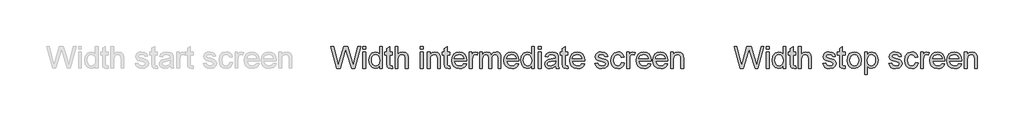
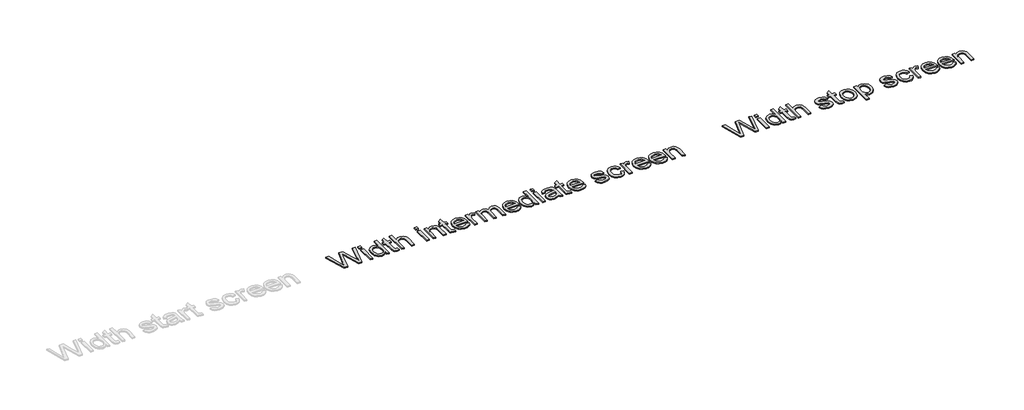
# One storey, part 3 of 4: 2 proxies.
"""IFC4 building model written with IfcOpenShell, lengths in millimetres."""

from ifc_helpers import new_model, si_unit, origin, origin_with_axes, place, context, project, spatial, polyline, outline, extrude, element, save

model = new_model("IFC4")

# Units and contexts
model_context = context("Model", 3, world=origin())
ifc_project = project(units=[si_unit("LENGTHUNIT", "METRE", prefix="MILLI")], contexts=[model_context])

# Site, building, storey
site = spatial("IfcSite", under=ifc_project)
building = spatial("IfcBuilding", under=site)
storey = spatial("IfcBuildingStorey", under=building, Name="Fixscreen Mini CW50 Reynaers Overview Top", Elevation=0.0)

# Proxies
placement = place(None, origin())
element("IfcBuildingElementProxy", 1, Name="100mm Arial", ObjectType="100mm Arial", at=placement, inside=storey, context=model_context, shape_type="SweptSolid", body=[
    extrude(outline(polyline([(6048.0070111, -5916.1618941), (6020.6120652, -5815.705584), (6033.5615114, -5815.705584), (6049.4540136, -5881.7281394), (6054.3591069, -5902.1088019), (6059.6075567, -5884.0825842), (6079.5222354, -5815.705584), (6098.1861153, -5815.705584), (6112.6561404, -5865.2715515), (6123.4228201, -5902.1088019), (6128.1807606, -5882.3167506), (6144.2204156, -5815.705584), (6157.1698618, -5815.705584), (6129.7503904, -5916.1618941), (6116.3349603, -5916.1618941), (6092.2509524, -5838.6614205), (6088.8909635, -5827.8456898), (6085.1140417, -5840.8687125), (6063.1637493, -5916.1618941), (6048.0070111, -5916.1618941)])), origin_with_axes(), (0.0, 0.0, 1.0), 5.0),
    extrude(outline(polyline([(6168.1572707, -5916.1618941), (6168.1572707, -5842.3892914), (6180.7143095, -5842.3892914), (6180.7143095, -5916.1618941), (6168.1572707, -5916.1618941)])), origin_with_axes(), (0.0, 0.0, 1.0), 5.0),
    extrude(outline(polyline([(6168.1572707, -5828.2626228), (6168.1572707, -5815.705584), (6180.7143095, -5815.705584), (6180.7143095, -5828.2626228), (6168.1572707, -5828.2626228)])), origin_with_axes(), (0.0, 0.0, 1.0), 5.0),
    extrude(outline(polyline([(6245.0691332, -5916.1618941), (6245.0691332, -5904.3160939), (6236.7611315, -5914.3776665), (6225.2770819, -5917.731524), (6209.7279362, -5912.8754817), (6198.7405273, -5899.3251615), (6194.8409781, -5879.3491692), (6198.4339589, -5859.3609141), (6209.2006387, -5845.6021275), (6225.2280309, -5840.8196615), (6236.804051, -5844.2409641), (6245.0691332, -5853.1314456), (6245.0691332, -5815.705584), (6257.626172, -5815.705584), (6257.626172, -5916.1618941), (6245.0691332, -5916.1618941)]), holes=[polyline([(6207.3980169, -5879.3001182), (6208.8143626, -5890.6584748), (6213.0633996, -5898.7365503), (6219.2376858, -5903.5650015), (6226.4297788, -5905.1744852), (6233.6188061, -5903.6385779), (6239.6367424, -5899.0308559), (6243.7110355, -5891.2654801), (6245.0691332, -5880.2566114), (6243.68651, -5868.2207388), (6239.5386405, -5859.8759489), (6233.3674201, -5855.0015124), (6225.914744, -5853.3767003), (6218.6490746, -5854.9371331), (6212.6955176, -5859.6184315), (6208.7223921, -5867.6597188), (6207.3980169, -5879.3001182)])]), origin_with_axes(), (0.0, 0.0, 1.0), 5.0),
    extrude(outline(polyline([(6303.1454375, -5905.68952), (6304.7150673, -5916.5297761), (6295.3218137, -5917.731524), (6284.8003887, -5915.6468593), (6279.5519389, -5910.1776804), (6278.03136, -5895.9283844), (6278.03136, -5854.9463301), (6268.6135809, -5854.9463301), (6268.6135809, -5842.3892914), (6278.03136, -5842.3892914), (6278.03136, -5824.4611755), (6290.5883987, -5817.0790101), (6290.5883987, -5842.3892914), (6303.1454375, -5842.3892914), (6303.1454375, -5854.9463301), (6290.5883987, -5854.9463301), (6290.5883987, -5895.5605024), (6291.2505863, -5902.0352255), (6293.3965646, -5904.3283566), (6297.6762585, -5905.1744852), (6303.1454375, -5905.68952)])), origin_with_axes(), (0.0, 0.0, 1.0), 5.0),
    extrude(outline(polyline([(6315.7024763, -5916.1618941), (6315.7024763, -5815.705584), (6328.259515, -5815.705584), (6328.259515, -5852.6409363), (6338.0513075, -5843.7749802), (6350.1117056, -5840.8196615), (6364.2138487, -5844.0447604), (6372.7732365, -5852.9597674), (6375.3484104, -5869.4654062), (6375.3484104, -5916.1618941), (6362.7913717, -5916.1618941), (6362.7913717, -5870.7652559), (6358.7937206, -5857.5215041), (6347.4629552, -5853.3767003), (6337.1745221, -5856.1726035), (6330.3073915, -5863.7509726), (6328.259515, -5876.9701989), (6328.259515, -5916.1618941), (6315.7024763, -5916.1618941)])), origin_with_axes(), (0.0, 0.0, 1.0), 5.0),
    extrude(outline(polyline([(6431.8550849, -5828.2626228), (6431.8550849, -5815.705584), (6444.4121236, -5815.705584), (6444.4121236, -5828.2626228), (6431.8550849, -5828.2626228)])), origin_with_axes(), (0.0, 0.0, 1.0), 5.0),
    extrude(outline(polyline([(6431.8550849, -5916.1618941), (6431.8550849, -5842.3892914), (6444.4121236, -5842.3892914), (6444.4121236, -5916.1618941), (6431.8550849, -5916.1618941)])), origin_with_axes(), (0.0, 0.0, 1.0), 5.0),
    extrude(outline(polyline([(6463.2476818, -5916.1618941), (6463.2476818, -5842.3892914), (6475.8047206, -5842.3892914), (6475.8047206, -5852.6899872), (6485.4064406, -5843.787243), (6498.5153024, -5840.8196615), (6510.3733654, -5843.2108945), (6518.4667693, -5849.4894139), (6522.2314284, -5858.723252), (6522.893616, -5870.8633578), (6522.893616, -5916.1618941), (6510.3365772, -5916.1618941), (6510.3365772, -5872.555615), (6508.8895747, -5861.4455787), (6503.7760149, -5855.5717295), (6495.1553135, -5853.3767003), (6481.531417, -5858.306319), (6477.2363947, -5865.4493611), (6475.8047206, -5877.0192499), (6475.8047206, -5916.1618941), (6463.2476818, -5916.1618941)])), origin_with_axes(), (0.0, 0.0, 1.0), 5.0),
    extrude(outline(polyline([(6566.8432516, -5905.68952), (6568.4128815, -5916.5297761), (6559.0196279, -5917.731524), (6548.4982028, -5915.6468593), (6543.249753, -5910.1776804), (6541.7291741, -5895.9283844), (6541.7291741, -5854.9463301), (6532.311395, -5854.9463301), (6532.311395, -5842.3892914), (6541.7291741, -5842.3892914), (6541.7291741, -5824.4611755), (6554.2862129, -5817.0790101), (6554.2862129, -5842.3892914), (6566.8432516, -5842.3892914), (6566.8432516, -5854.9463301), (6554.2862129, -5854.9463301), (6554.2862129, -5895.5605024), (6554.9484005, -5902.0352255), (6557.0943788, -5904.3283566), (6561.3740726, -5905.1744852), (6566.8432516, -5905.68952)])), origin_with_axes(), (0.0, 0.0, 1.0), 5.0),
    extrude(outline(polyline([(6631.0509225, -5894.1870763), (6643.3627066, -5895.7567061), (6638.9266629, -5905.0334638), (6631.8480002, -5911.9680394), (6622.286134, -5916.2906528), (6610.4004799, -5917.731524), (6595.666806, -5915.2452548), (6584.3299091, -5907.7864474), (6577.1010279, -5895.8394796), (6574.6914009, -5879.8887294), (6577.1255534, -5863.4014847), (6584.428011, -5851.0713065), (6595.6116237, -5843.3825728), (6609.6892413, -5840.8196615), (6623.3284663, -5843.3764414), (6634.2269704, -5851.046781), (6641.3730782, -5863.3524337), (6643.7551141, -5879.815153), (6643.6815377, -5883.1996674), (6587.2484396, -5883.1996674), (6589.4220091, -5892.5990524), (6594.4711895, -5899.5091025), (6601.7583187, -5903.7581395), (6610.6457345, -5905.1744852), (6622.9575186, -5902.5502603), (6631.0509225, -5894.1870763)]), holes=[polyline([(6587.2484396, -5870.6426286), (6631.1980753, -5870.6426286), (6626.1703547, -5859.2628122), (6618.849503, -5854.8482283), (6609.6401904, -5853.3767003), (6594.1768839, -5858.0733271), (6589.3116445, -5863.5639659), (6587.2484396, -5870.6426286)])]), origin_with_axes(), (0.0, 0.0, 1.0), 5.0),
    extrude(outline(polyline([(6656.3121529, -5916.1618941), (6656.3121529, -5842.3892914), (6667.2995618, -5842.3892914), (6667.2995618, -5853.3031239), (6675.0986601, -5843.2476827), (6682.9468093, -5840.8196615), (6695.552899, -5844.6946852), (6691.3590443, -5855.9518743), (6682.5298764, -5853.3767003), (6675.4297539, -5855.8537724), (6670.9048053, -5862.720903), (6668.8691916, -5877.3871319), (6668.8691916, -5916.1618941), (6656.3121529, -5916.1618941)])), origin_with_axes(), (0.0, 0.0, 1.0), 5.0),
    extrude(outline(polyline([(6703.4010483, -5916.1618941), (6703.4010483, -5842.3892914), (6715.958087, -5842.3892914), (6715.958087, -5854.5293972), (6724.5910512, -5844.5843206), (6736.8783098, -5840.8196615), (6749.459874, -5844.657897), (6756.3760556, -5855.412314), (6766.1739794, -5844.4678246), (6778.5470771, -5840.8196615), (6787.986316, -5842.3371748), (6794.9668769, -5846.8897145), (6799.2802932, -5854.5999079), (6800.7180987, -5865.5903825), (6800.7180987, -5916.1618941), (6788.1610599, -5916.1618941), (6788.1610599, -5870.9859851), (6786.9961003, -5860.5013483), (6782.7777201, -5855.3387376), (6775.6040212, -5853.3767003), (6763.2554489, -5858.4044209), (6759.5674319, -5864.946589), (6758.3380929, -5874.5176523), (6758.3380929, -5916.1618941), (6745.7810541, -5916.1618941), (6745.7810541, -5869.5880336), (6742.8747863, -5857.4234022), (6733.3466427, -5853.3767003), (6724.0514909, -5856.0745016), (6717.8710734, -5863.9717018), (6715.958087, -5878.9567617), (6715.958087, -5916.1618941), (6703.4010483, -5916.1618941)])), origin_with_axes(), (0.0, 0.0, 1.0), 5.0),
    extrude(outline(polyline([(6871.204289, -5894.1870763), (6883.5160731, -5895.7567061), (6879.0800294, -5905.0334638), (6872.0013666, -5911.9680394), (6862.4395005, -5916.2906528), (6850.5538463, -5917.731524), (6835.8201724, -5915.2452548), (6824.4832756, -5907.7864474), (6817.2543944, -5895.8394796), (6814.8447673, -5879.8887294), (6817.2789199, -5863.4014847), (6824.5813775, -5851.0713065), (6835.7649901, -5843.3825728), (6849.8426078, -5840.8196615), (6863.4818328, -5843.3764414), (6874.3803369, -5851.046781), (6881.5264446, -5863.3524337), (6883.9084806, -5879.815153), (6883.8349042, -5883.1996674), (6827.4018061, -5883.1996674), (6829.5753755, -5892.5990524), (6834.6245559, -5899.5091025), (6841.9116851, -5903.7581395), (6850.799101, -5905.1744852), (6863.1108851, -5902.5502603), (6871.204289, -5894.1870763)]), holes=[polyline([(6827.4018061, -5870.6426286), (6871.3514418, -5870.6426286), (6866.3237212, -5859.2628122), (6859.0028695, -5854.8482283), (6849.7935569, -5853.3767003), (6834.3302503, -5858.0733271), (6829.4650109, -5863.5639659), (6827.4018061, -5870.6426286)])]), origin_with_axes(), (0.0, 0.0, 1.0), 5.0),
    extrude(outline(polyline([(6941.9847849, -5916.1618941), (6941.9847849, -5904.3160939), (6933.6767831, -5914.3776665), (6922.1927335, -5917.731524), (6906.6435879, -5912.8754817), (6895.6561789, -5899.3251615), (6891.7566298, -5879.3491692), (6895.3496106, -5859.3609141), (6906.1162903, -5845.6021275), (6922.1436826, -5840.8196615), (6933.7197027, -5844.2409641), (6941.9847849, -5853.1314456), (6941.9847849, -5815.705584), (6954.5418236, -5815.705584), (6954.5418236, -5916.1618941), (6941.9847849, -5916.1618941)]), holes=[polyline([(6904.3136686, -5879.3001182), (6905.7300142, -5890.6584748), (6909.9790513, -5898.7365503), (6916.1533374, -5903.5650015), (6923.3454304, -5905.1744852), (6930.5344578, -5903.6385779), (6936.5523941, -5899.0308559), (6940.6266872, -5891.2654801), (6941.9847849, -5880.2566114), (6940.6021617, -5868.2207388), (6936.4542922, -5859.8759489), (6930.2830717, -5855.0015124), (6922.8303956, -5853.3767003), (6915.5647262, -5854.9371331), (6909.6111693, -5859.6184315), (6905.6380437, -5867.6597188), (6904.3136686, -5879.3001182)])]), origin_with_axes(), (0.0, 0.0, 1.0), 5.0),
    extrude(outline(polyline([(6973.3773818, -5916.1618941), (6973.3773818, -5842.3892914), (6985.9344205, -5842.3892914), (6985.9344205, -5916.1618941), (6973.3773818, -5916.1618941)])), origin_with_axes(), (0.0, 0.0, 1.0), 5.0),
    extrude(outline(polyline([(6973.3773818, -5828.2626228), (6973.3773818, -5815.705584), (6985.9344205, -5815.705584), (6985.9344205, -5828.2626228), (6973.3773818, -5828.2626228)])), origin_with_axes(), (0.0, 0.0, 1.0), 5.0),
    extrude(outline(polyline([(7051.8588741, -5906.7441151), (7039.68198, -5915.2544519), (7026.2297618, -5917.731524), (7015.7359278, -5916.2416019), (7007.9950775, -5911.7718357), (7003.2218086, -5904.9844129), (7001.630719, -5896.5415211), (7004.0342147, -5886.6087072), (7010.3495223, -5879.3982201), (7019.141902, -5875.2779417), (7030.0066836, -5873.3894808), (7051.7852977, -5869.0729988), (7051.8588741, -5866.2770956), (7048.4007833, -5857.0064693), (7034.5193694, -5853.3767003), (7021.8151778, -5855.7924587), (7015.7573876, -5864.3641092), (7003.2003489, -5862.7944794), (7008.6327397, -5850.5317462), (7019.5710976, -5843.3457846), (7036.1380502, -5840.8196615), (7051.356102, -5843.051479), (7059.952278, -5848.655548), (7063.8027762, -5857.1781476), (7064.4159129, -5868.1655565), (7064.4159129, -5883.7882786), (7065.053575, -5905.6036809), (7067.5551725, -5916.1618941), (7054.9981338, -5916.1618941), (7051.8588741, -5906.7441151)]), holes=[polyline([(7051.8588741, -5881.6300375), (7031.6008389, -5885.4805357), (7020.797371, -5887.5161495), (7015.9045404, -5890.8270874), (7014.1877578, -5895.6586043), (7017.9278914, -5902.4521585), (7028.9030376, -5905.1744852), (7041.6072292, -5902.1701156), (7049.7987349, -5894.8983148), (7051.7852977, -5885.1862301), (7051.8588741, -5881.6300375)])]), origin_with_axes(), (0.0, 0.0, 1.0), 5.0),
    extrude(outline(polyline([(7108.3655485, -5905.68952), (7109.9351784, -5916.5297761), (7100.5419248, -5917.731524), (7090.0204997, -5915.6468593), (7084.7720499, -5910.1776804), (7083.251471, -5895.9283844), (7083.251471, -5854.9463301), (7073.8336919, -5854.9463301), (7073.8336919, -5842.3892914), (7083.251471, -5842.3892914), (7083.251471, -5824.4611755), (7095.8085098, -5817.0790101), (7095.8085098, -5842.3892914), (7108.3655485, -5842.3892914), (7108.3655485, -5854.9463301), (7095.8085098, -5854.9463301), (7095.8085098, -5895.5605024), (7096.4706974, -5902.0352255), (7098.6166757, -5904.3283566), (7102.8963695, -5905.1744852), (7108.3655485, -5905.68952)])), origin_with_axes(), (0.0, 0.0, 1.0), 5.0),
    extrude(outline(polyline([(7172.5732194, -5894.1870763), (7184.8850035, -5895.7567061), (7180.4489598, -5905.0334638), (7173.3702971, -5911.9680394), (7163.8084309, -5916.2906528), (7151.9227768, -5917.731524), (7137.1891029, -5915.2452548), (7125.852206, -5907.7864474), (7118.6233248, -5895.8394796), (7116.2136978, -5879.8887294), (7118.6478503, -5863.4014847), (7125.9503079, -5851.0713065), (7137.1339206, -5843.3825728), (7151.2115382, -5840.8196615), (7164.8507632, -5843.3764414), (7175.7492673, -5851.046781), (7182.8953751, -5863.3524337), (7185.277411, -5879.815153), (7185.2038346, -5883.1996674), (7128.7707365, -5883.1996674), (7130.944306, -5892.5990524), (7135.9934864, -5899.5091025), (7143.2806156, -5903.7581395), (7152.1680314, -5905.1744852), (7164.4798155, -5902.5502603), (7172.5732194, -5894.1870763)]), holes=[polyline([(7128.7707365, -5870.6426286), (7172.7203722, -5870.6426286), (7167.6926516, -5859.2628122), (7160.3717999, -5854.8482283), (7151.1624873, -5853.3767003), (7135.6991808, -5858.0733271), (7130.8339414, -5863.5639659), (7128.7707365, -5870.6426286)])]), origin_with_axes(), (0.0, 0.0, 1.0), 5.0),
    extrude(outline(polyline([(7232.3663064, -5894.1870763), (7244.9233452, -5892.6174465), (7250.7358807, -5901.9371237), (7264.0532089, -5905.1744852), (7276.8555023, -5902.2069038), (7281.0248316, -5895.2416713), (7276.8309769, -5889.6008141), (7263.9060561, -5886.020096), (7244.9969216, -5879.8764667), (7236.7441021, -5872.7027678), (7233.9359362, -5862.5737502), (7236.1922791, -5853.2172848), (7242.3481712, -5846.0681113), (7250.3312105, -5842.3525032), (7261.1346784, -5840.8196615), (7276.4140439, -5843.2844709), (7286.1261286, -5849.9553977), (7290.4426107, -5861.2248495), (7277.8855719, -5862.7944794), (7273.1644196, -5855.8660351), (7262.1156971, -5853.3767003), (7250.0982186, -5855.7556705), (7246.492975, -5861.2984259), (7247.9890284, -5864.9527204), (7252.6733925, -5867.7240981), (7263.4891232, -5870.3973739), (7281.9200111, -5876.3080113), (7290.4793989, -5883.0034636), (7293.5818704, -5893.9172962), (7289.9398386, -5905.9347747), (7279.4306763, -5914.653578), (7263.8815306, -5917.731524), (7251.2202586, -5916.2477333), (7241.9802892, -5911.7963611), (7235.8121344, -5904.4264585), (7232.3663064, -5894.1870763)])), origin_with_axes(), (0.0, 0.0, 1.0), 5.0),
    extrude(outline(polyline([(7354.7974344, -5889.4781868), (7367.3544731, -5891.0478166), (7363.8534628, -5902.2161008), (7357.2745065, -5910.6559269), (7348.2368721, -5915.9626247), (7337.3598278, -5917.731524), (7324.0026457, -5915.2636489), (7313.5578627, -5907.8600238), (7306.8164252, -5895.845611), (7304.5692793, -5879.5453729), (7308.4075148, -5858.6864638), (7320.1061622, -5845.2832964), (7337.1881495, -5840.8196615), (7347.7984794, -5842.3525032), (7356.2812251, -5846.9510281), (7362.3666064, -5854.3699817), (7365.7848433, -5864.3641092), (7353.2278045, -5865.9337391), (7347.4030063, -5856.5282227), (7337.2862514, -5853.3767003), (7329.1713877, -5854.927936), (7322.7303871, -5859.5816433), (7318.5273353, -5867.589208), (7317.1263181, -5879.2020164), (7318.4966785, -5890.9711745), (7322.6077598, -5899.0063304), (7328.9322644, -5903.6324465), (7336.9428949, -5905.1744852), (7348.7764324, -5901.323987), (7354.7974344, -5889.4781868)])), origin_with_axes(), (0.0, 0.0, 1.0), 5.0),
    extrude(outline(polyline([(7378.3418821, -5916.1618941), (7378.3418821, -5842.3892914), (7389.329291, -5842.3892914), (7389.329291, -5853.3031239), (7397.1283893, -5843.2476827), (7404.9765385, -5840.8196615), (7417.5826282, -5844.6946852), (7413.3887735, -5855.9518743), (7404.5596056, -5853.3767003), (7397.4594831, -5855.8537724), (7392.9345345, -5862.720903), (7390.8989208, -5877.3871319), (7390.8989208, -5916.1618941), (7378.3418821, -5916.1618941)])), origin_with_axes(), (0.0, 0.0, 1.0), 5.0),
    extrude(outline(polyline([(7477.0814096, -5894.1870763), (7489.3931937, -5895.7567061), (7484.95715, -5905.0334638), (7477.8784872, -5911.9680394), (7468.316621, -5916.2906528), (7456.4309669, -5917.731524), (7441.697293, -5915.2452548), (7430.3603962, -5907.7864474), (7423.131515, -5895.8394796), (7420.7218879, -5879.8887294), (7423.1560404, -5863.4014847), (7430.4584981, -5851.0713065), (7441.6421107, -5843.3825728), (7455.7197284, -5840.8196615), (7469.3589534, -5843.3764414), (7480.2574575, -5851.046781), (7487.4035652, -5863.3524337), (7489.7856011, -5879.815153), (7489.7120247, -5883.1996674), (7433.2789267, -5883.1996674), (7435.4524961, -5892.5990524), (7440.5016765, -5899.5091025), (7447.7888057, -5903.7581395), (7456.6762216, -5905.1744852), (7468.9880057, -5902.5502603), (7477.0814096, -5894.1870763)]), holes=[polyline([(7433.2789267, -5870.6426286), (7477.2285624, -5870.6426286), (7472.2008418, -5859.2628122), (7464.8799901, -5854.8482283), (7455.6706775, -5853.3767003), (7440.2073709, -5858.0733271), (7435.3421315, -5863.5639659), (7433.2789267, -5870.6426286)])]), origin_with_axes(), (0.0, 0.0, 1.0), 5.0),
    extrude(outline(polyline([(7553.993272, -5894.1870763), (7566.3050561, -5895.7567061), (7561.8690124, -5905.0334638), (7554.7903497, -5911.9680394), (7545.2284835, -5916.2906528), (7533.3428294, -5917.731524), (7518.6091555, -5915.2452548), (7507.2722586, -5907.7864474), (7500.0433774, -5895.8394796), (7497.6337504, -5879.8887294), (7500.0679029, -5863.4014847), (7507.3703605, -5851.0713065), (7518.5539732, -5843.3825728), (7532.6315908, -5840.8196615), (7546.2708158, -5843.3764414), (7557.1693199, -5851.046781), (7564.3154277, -5863.3524337), (7566.6974636, -5879.815153), (7566.6238872, -5883.1996674), (7510.1907891, -5883.1996674), (7512.3643586, -5892.5990524), (7517.413539, -5899.5091025), (7524.7006682, -5903.7581395), (7533.588084, -5905.1744852), (7545.8998681, -5902.5502603), (7553.993272, -5894.1870763)]), holes=[polyline([(7510.1907891, -5870.6426286), (7554.1404248, -5870.6426286), (7549.1127042, -5859.2628122), (7541.7918525, -5854.8482283), (7532.5825399, -5853.3767003), (7517.1192334, -5858.0733271), (7512.253994, -5863.5639659), (7510.1907891, -5870.6426286)])]), origin_with_axes(), (0.0, 0.0, 1.0), 5.0),
    extrude(outline(polyline([(7579.2545024, -5916.1618941), (7579.2545024, -5842.3892914), (7591.8115411, -5842.3892914), (7591.8115411, -5852.6899872), (7601.4132612, -5843.787243), (7614.522123, -5840.8196615), (7626.380186, -5843.2108945), (7634.4735898, -5849.4894139), (7638.2382489, -5858.723252), (7638.9004365, -5870.8633578), (7638.9004365, -5916.1618941), (7626.3433978, -5916.1618941), (7626.3433978, -5872.555615), (7624.8963952, -5861.4455787), (7619.7828355, -5855.5717295), (7611.1621341, -5853.3767003), (7597.5382375, -5858.306319), (7593.2432152, -5865.4493611), (7591.8115411, -5877.0192499), (7591.8115411, -5916.1618941), (7579.2545024, -5916.1618941)])), origin_with_axes(), (0.0, 0.0, 1.0), 5.0),
])
element("IfcBuildingElementProxy", 2, Name="100mm Arial", ObjectType="100mm Arial", at=placement, inside=storey, context=model_context, shape_type="SweptSolid", body=[
    extrude(outline(polyline([(7898.2278873, -5916.1618941), (7870.8329413, -5815.705584), (7883.7823876, -5815.705584), (7899.6748898, -5881.7281394), (7904.579983, -5902.1088019), (7909.8284328, -5884.0825842), (7929.7431115, -5815.705584), (7948.4069914, -5815.705584), (7962.8770165, -5865.2715515), (7973.6436963, -5902.1088019), (7978.4016367, -5882.3167506), (7994.4412917, -5815.705584), (8007.390738, -5815.705584), (7979.9712666, -5916.1618941), (7966.5558365, -5916.1618941), (7942.4718285, -5838.6614205), (7939.1118396, -5827.8456898), (7935.3349178, -5840.8687125), (7913.3846255, -5916.1618941), (7898.2278873, -5916.1618941)])), origin_with_axes(), (0.0, 0.0, 1.0), 5.0),
    extrude(outline(polyline([(8018.3781469, -5916.1618941), (8018.3781469, -5842.3892914), (8030.9351856, -5842.3892914), (8030.9351856, -5916.1618941), (8018.3781469, -5916.1618941)])), origin_with_axes(), (0.0, 0.0, 1.0), 5.0),
    extrude(outline(polyline([(8018.3781469, -5828.2626228), (8018.3781469, -5815.705584), (8030.9351856, -5815.705584), (8030.9351856, -5828.2626228), (8018.3781469, -5828.2626228)])), origin_with_axes(), (0.0, 0.0, 1.0), 5.0),
    extrude(outline(polyline([(8095.2900093, -5916.1618941), (8095.2900093, -5904.3160939), (8086.9820076, -5914.3776665), (8075.497958, -5917.731524), (8059.9488123, -5912.8754817), (8048.9614034, -5899.3251615), (8045.0618543, -5879.3491692), (8048.6548351, -5859.3609141), (8059.4215148, -5845.6021275), (8075.4489071, -5840.8196615), (8087.0249272, -5844.2409641), (8095.2900093, -5853.1314456), (8095.2900093, -5815.705584), (8107.8470481, -5815.705584), (8107.8470481, -5916.1618941), (8095.2900093, -5916.1618941)]), holes=[polyline([(8057.618893, -5879.3001182), (8059.0352387, -5890.6584748), (8063.2842758, -5898.7365503), (8069.4585619, -5903.5650015), (8076.6506549, -5905.1744852), (8083.8396822, -5903.6385779), (8089.8576185, -5899.0308559), (8093.9319116, -5891.2654801), (8095.2900093, -5880.2566114), (8093.9073862, -5868.2207388), (8089.7595167, -5859.8759489), (8083.5882962, -5855.0015124), (8076.1356201, -5853.3767003), (8068.8699507, -5854.9371331), (8062.9163938, -5859.6184315), (8058.9432682, -5867.6597188), (8057.618893, -5879.3001182)])]), origin_with_axes(), (0.0, 0.0, 1.0), 5.0),
    extrude(outline(polyline([(8153.3663136, -5905.68952), (8154.9359435, -5916.5297761), (8145.5426899, -5917.731524), (8135.0212648, -5915.6468593), (8129.772815, -5910.1776804), (8128.2522361, -5895.9283844), (8128.2522361, -5854.9463301), (8118.834457, -5854.9463301), (8118.834457, -5842.3892914), (8128.2522361, -5842.3892914), (8128.2522361, -5824.4611755), (8140.8092749, -5817.0790101), (8140.8092749, -5842.3892914), (8153.3663136, -5842.3892914), (8153.3663136, -5854.9463301), (8140.8092749, -5854.9463301), (8140.8092749, -5895.5605024), (8141.4714625, -5902.0352255), (8143.6174408, -5904.3283566), (8147.8971346, -5905.1744852), (8153.3663136, -5905.68952)])), origin_with_axes(), (0.0, 0.0, 1.0), 5.0),
    extrude(outline(polyline([(8165.9233524, -5916.1618941), (8165.9233524, -5815.705584), (8178.4803912, -5815.705584), (8178.4803912, -5852.6409363), (8188.2721836, -5843.7749802), (8200.3325817, -5840.8196615), (8214.4347248, -5844.0447604), (8222.9941126, -5852.9597674), (8225.5692866, -5869.4654062), (8225.5692866, -5916.1618941), (8213.0122478, -5916.1618941), (8213.0122478, -5870.7652559), (8209.0145968, -5857.5215041), (8197.6838313, -5853.3767003), (8187.3953982, -5856.1726035), (8180.5282676, -5863.7509726), (8178.4803912, -5876.9701989), (8178.4803912, -5916.1618941), (8165.9233524, -5916.1618941)])), origin_with_axes(), (0.0, 0.0, 1.0), 5.0),
    extrude(outline(polyline([(8277.3670715, -5894.1870763), (8289.9241102, -5892.6174465), (8295.7366458, -5901.9371237), (8309.053974, -5905.1744852), (8321.8562674, -5902.2069038), (8326.0255967, -5895.2416713), (8321.831742, -5889.6008141), (8308.9068212, -5886.020096), (8289.9976866, -5879.8764667), (8281.7448672, -5872.7027678), (8278.9367013, -5862.5737502), (8281.1930442, -5853.2172848), (8287.3489363, -5846.0681113), (8295.3319756, -5842.3525032), (8306.1354435, -5840.8196615), (8321.414809, -5843.2844709), (8331.1268937, -5849.9553977), (8335.4433758, -5861.2248495), (8322.886337, -5862.7944794), (8318.1651847, -5855.8660351), (8307.1164622, -5853.3767003), (8295.0989836, -5855.7556705), (8291.4937401, -5861.2984259), (8292.9897935, -5864.9527204), (8297.6741576, -5867.7240981), (8308.4898883, -5870.3973739), (8326.9207762, -5876.3080113), (8335.480164, -5883.0034636), (8338.5826355, -5893.9172962), (8334.9406037, -5905.9347747), (8324.4314414, -5914.653578), (8308.8822957, -5917.731524), (8296.2210237, -5916.2477333), (8286.9810543, -5911.7963611), (8280.8128995, -5904.4264585), (8277.3670715, -5894.1870763)])), origin_with_axes(), (0.0, 0.0, 1.0), 5.0),
    extrude(outline(polyline([(8379.3930115, -5905.68952), (8380.9626413, -5916.5297761), (8371.5693877, -5917.731524), (8361.0479627, -5915.6468593), (8355.7995129, -5910.1776804), (8354.2789339, -5895.9283844), (8354.2789339, -5854.9463301), (8344.8611549, -5854.9463301), (8344.8611549, -5842.3892914), (8354.2789339, -5842.3892914), (8354.2789339, -5824.4611755), (8366.8359727, -5817.0790101), (8366.8359727, -5842.3892914), (8379.3930115, -5842.3892914), (8379.3930115, -5854.9463301), (8366.8359727, -5854.9463301), (8366.8359727, -5895.5605024), (8367.4981603, -5902.0352255), (8369.6441386, -5904.3283566), (8373.9238325, -5905.1744852), (8379.3930115, -5905.68952)])), origin_with_axes(), (0.0, 0.0, 1.0), 5.0),
    extrude(outline(polyline([(8388.8107906, -5879.2755928), (8391.526986, -5861.4884983), (8399.6755721, -5848.9866418), (8409.7432761, -5842.8614066), (8421.7975428, -5840.8196615), (8434.989178, -5843.3059307), (8445.5259315, -5850.7647381), (8452.4329159, -5862.6074727), (8454.7352441, -5878.2455232), (8450.6640167, -5900.588223), (8438.8059537, -5913.2311009), (8421.7975428, -5917.731524), (8408.446492, -5915.2544519), (8397.9220013, -5907.8232356), (8391.0885932, -5895.7321807), (8388.8107906, -5879.2755928)]), holes=[polyline([(8401.3678293, -5879.2510673), (8402.8209632, -5890.6155553), (8407.1803648, -5898.7120248), (8413.7409271, -5903.5588701), (8421.7975428, -5905.1744852), (8429.8173703, -5903.5496731), (8436.3656698, -5898.6752366), (8440.7250714, -5890.4714681), (8442.1782053, -5878.8586598), (8440.7158744, -5867.8252657), (8436.3288816, -5859.8391607), (8429.771385, -5854.9923154), (8421.7975428, -5853.3767003), (8413.7409271, -5854.986184), (8407.1803648, -5859.8146352), (8402.8209632, -5867.8927107), (8401.3678293, -5879.2510673)])]), origin_with_axes(), (0.0, 0.0, 1.0), 5.0),
    extrude(outline(polyline([(8468.8619127, -5944.4152314), (8468.8619127, -5842.3892914), (8481.4189515, -5842.3892914), (8481.4189515, -5854.7010755), (8490.1009666, -5844.290015), (8501.8241395, -5840.8196615), (8517.7411671, -5845.6757039), (8528.1399649, -5859.3609141), (8531.6471065, -5878.711507), (8527.6862437, -5899.0553814), (8516.1838, -5912.9122699), (8500.3035606, -5917.731524), (8489.3774653, -5914.5064252), (8481.4189515, -5906.3517076), (8481.4189515, -5944.4152314), (8468.8619127, -5944.4152314)]), holes=[polyline([(8481.4189515, -5879.864204), (8482.7770492, -5891.121393), (8486.8513423, -5898.9940677), (8492.8631472, -5903.6293808), (8500.0337804, -5905.1744852), (8507.3209096, -5903.5741985), (8513.4859987, -5898.7733385), (8517.6890505, -5890.6124896), (8519.0900678, -5878.9322362), (8517.722773, -5867.7363608), (8513.6208888, -5859.7533215), (8507.6182809, -5854.9708556), (8500.5488152, -5853.3767003), (8493.4517584, -5855.0720232), (8487.2192243, -5860.1579917), (8482.8690197, -5868.4751905), (8481.4189515, -5879.864204)])]), origin_with_axes(), (0.0, 0.0, 1.0), 5.0),
    extrude(outline(polyline([(8580.3056318, -5894.1870763), (8592.8626705, -5892.6174465), (8598.6752061, -5901.9371237), (8611.9925343, -5905.1744852), (8624.7948277, -5902.2069038), (8628.964157, -5895.2416713), (8624.7703023, -5889.6008141), (8611.8453815, -5886.020096), (8592.9362469, -5879.8764667), (8584.6834275, -5872.7027678), (8581.8752616, -5862.5737502), (8584.1316045, -5853.2172848), (8590.2874966, -5846.0681113), (8598.2705359, -5842.3525032), (8609.0740038, -5840.8196615), (8624.3533693, -5843.2844709), (8634.065454, -5849.9553977), (8638.3819361, -5861.2248495), (8625.8248973, -5862.7944794), (8621.103745, -5855.8660351), (8610.0550225, -5853.3767003), (8598.0375439, -5855.7556705), (8594.4323004, -5861.2984259), (8595.9283538, -5864.9527204), (8600.6127179, -5867.7240981), (8611.4284486, -5870.3973739), (8629.8593365, -5876.3080113), (8638.4187243, -5883.0034636), (8641.5211958, -5893.9172962), (8637.879164, -5905.9347747), (8627.3700017, -5914.653578), (8611.820856, -5917.731524), (8599.159584, -5916.2477333), (8589.9196146, -5911.7963611), (8583.7514598, -5904.4264585), (8580.3056318, -5894.1870763)])), origin_with_axes(), (0.0, 0.0, 1.0), 5.0),
    extrude(outline(polyline([(8702.7367598, -5889.4781868), (8715.2937985, -5891.0478166), (8711.7927882, -5902.2161008), (8705.2138319, -5910.6559269), (8696.1761975, -5915.9626247), (8685.2991532, -5917.731524), (8671.9419711, -5915.2636489), (8661.4971881, -5907.8600238), (8654.7557505, -5895.845611), (8652.5086047, -5879.5453729), (8656.3468402, -5858.6864638), (8668.0454876, -5845.2832964), (8685.1274749, -5840.8196615), (8695.7378048, -5842.3525032), (8704.2205505, -5846.9510281), (8710.3059318, -5854.3699817), (8713.7241687, -5864.3641092), (8701.1671299, -5865.9337391), (8695.3423317, -5856.5282227), (8685.2255768, -5853.3767003), (8677.1107131, -5854.927936), (8670.6697125, -5859.5816433), (8666.4666607, -5867.589208), (8665.0656435, -5879.2020164), (8666.4360039, -5890.9711745), (8670.5470852, -5899.0063304), (8676.8715898, -5903.6324465), (8684.8822203, -5905.1744852), (8696.7157578, -5901.323987), (8702.7367598, -5889.4781868)])), origin_with_axes(), (0.0, 0.0, 1.0), 5.0),
    extrude(outline(polyline([(8726.2812075, -5916.1618941), (8726.2812075, -5842.3892914), (8737.2686164, -5842.3892914), (8737.2686164, -5853.3031239), (8745.0677147, -5843.2476827), (8752.9158639, -5840.8196615), (8765.5219536, -5844.6946852), (8761.3280989, -5855.9518743), (8752.498931, -5853.3767003), (8745.3988085, -5855.8537724), (8740.8738599, -5862.720903), (8738.8382462, -5877.3871319), (8738.8382462, -5916.1618941), (8726.2812075, -5916.1618941)])), origin_with_axes(), (0.0, 0.0, 1.0), 5.0),
    extrude(outline(polyline([(8825.020735, -5894.1870763), (8837.3325191, -5895.7567061), (8832.8964753, -5905.0334638), (8825.8178126, -5911.9680394), (8816.2559464, -5916.2906528), (8804.3702923, -5917.731524), (8789.6366184, -5915.2452548), (8778.2997216, -5907.7864474), (8771.0708404, -5895.8394796), (8768.6612133, -5879.8887294), (8771.0953658, -5863.4014847), (8778.3978234, -5851.0713065), (8789.5814361, -5843.3825728), (8803.6590538, -5840.8196615), (8817.2982788, -5843.3764414), (8828.1967829, -5851.046781), (8835.3428906, -5863.3524337), (8837.7249265, -5879.815153), (8837.6513501, -5883.1996674), (8781.2182521, -5883.1996674), (8783.3918215, -5892.5990524), (8788.4410019, -5899.5091025), (8795.7281311, -5903.7581395), (8804.615547, -5905.1744852), (8816.9273311, -5902.5502603), (8825.020735, -5894.1870763)]), holes=[polyline([(8781.2182521, -5870.6426286), (8825.1678878, -5870.6426286), (8820.1401672, -5859.2628122), (8812.8193155, -5854.8482283), (8803.6100028, -5853.3767003), (8788.1466963, -5858.0733271), (8783.2814569, -5863.5639659), (8781.2182521, -5870.6426286)])]), origin_with_axes(), (0.0, 0.0, 1.0), 5.0),
    extrude(outline(polyline([(8901.9325974, -5894.1870763), (8914.2443815, -5895.7567061), (8909.8083378, -5905.0334638), (8902.7296751, -5911.9680394), (8893.1678089, -5916.2906528), (8881.2821548, -5917.731524), (8866.5484809, -5915.2452548), (8855.211584, -5907.7864474), (8847.9827028, -5895.8394796), (8845.5730758, -5879.8887294), (8848.0072283, -5863.4014847), (8855.3096859, -5851.0713065), (8866.4932986, -5843.3825728), (8880.5709162, -5840.8196615), (8894.2101412, -5843.3764414), (8905.1086453, -5851.046781), (8912.2547531, -5863.3524337), (8914.636789, -5879.815153), (8914.5632126, -5883.1996674), (8858.1301145, -5883.1996674), (8860.303684, -5892.5990524), (8865.3528644, -5899.5091025), (8872.6399936, -5903.7581395), (8881.5274094, -5905.1744852), (8893.8391935, -5902.5502603), (8901.9325974, -5894.1870763)]), holes=[polyline([(8858.1301145, -5870.6426286), (8902.0797502, -5870.6426286), (8897.0520296, -5859.2628122), (8889.7311779, -5854.8482283), (8880.5218653, -5853.3767003), (8865.0585588, -5858.0733271), (8860.1933194, -5863.5639659), (8858.1301145, -5870.6426286)])]), origin_with_axes(), (0.0, 0.0, 1.0), 5.0),
    extrude(outline(polyline([(8927.1938278, -5916.1618941), (8927.1938278, -5842.3892914), (8939.7508665, -5842.3892914), (8939.7508665, -5852.6899872), (8949.3525866, -5843.787243), (8962.4614484, -5840.8196615), (8974.3195113, -5843.2108945), (8982.4129152, -5849.4894139), (8986.1775743, -5858.723252), (8986.8397619, -5870.8633578), (8986.8397619, -5916.1618941), (8974.2827231, -5916.1618941), (8974.2827231, -5872.555615), (8972.8357206, -5861.4455787), (8967.7221609, -5855.5717295), (8959.1014595, -5853.3767003), (8945.4775629, -5858.306319), (8941.1825406, -5865.4493611), (8939.7508665, -5877.0192499), (8939.7508665, -5916.1618941), (8927.1938278, -5916.1618941)])), origin_with_axes(), (0.0, 0.0, 1.0), 5.0),
])

save(model, "model.ifc")
